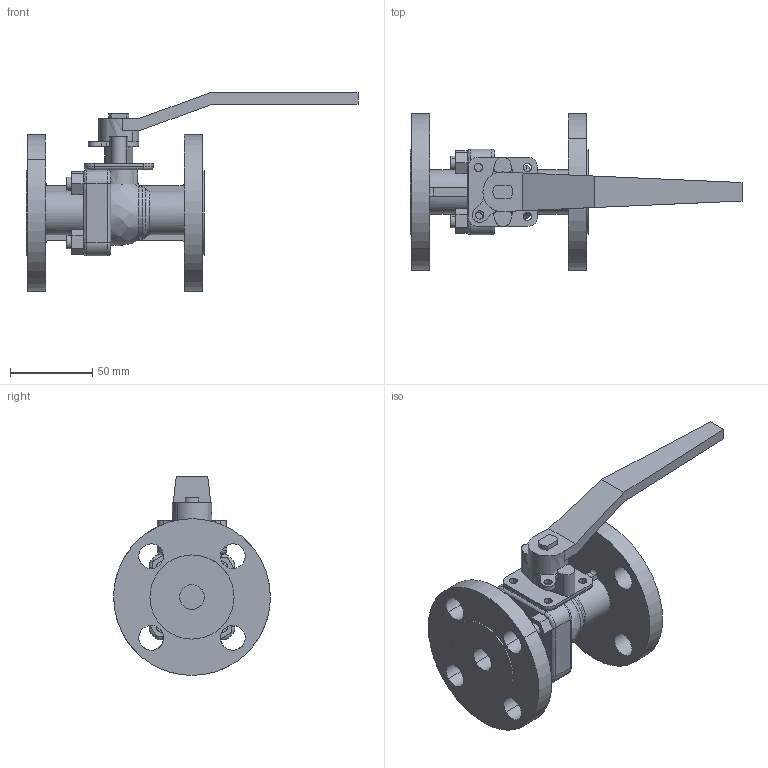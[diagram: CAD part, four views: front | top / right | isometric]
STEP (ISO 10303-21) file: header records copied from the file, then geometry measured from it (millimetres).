
FILE_DESCRIPTION((''),'2;1');
FILE_NAME('','2022-03-23T15:29:00',(''),(''),'','CADfix','');
FILE_SCHEMA(('AUTOMOTIVE_DESIGN { 1 0 10303 214 1 1 1 1 }'));
Length unit declared in the file: millimetre
Products named in the file (2): BLV-2SFJ 15A; BLV-2SF JIS 10K 15A_38
Assembly tree (1 placements, depth 2):
  BLV-2SF JIS 10K 15A_38
    BLV-2SFJ 15A
Bounding box: 201.3 x 95 x 120.5 mm (x, y, z)
Volume: 257631.4 mm3; surface area: 69996.9 mm2
Topology: 1 solids, 1 shells, 217 faces, 784 edges, 580 vertices
Faces by surface type: bspline 217
Entity records: 11382 total; most frequent: CARTESIAN_POINT 6223, ORIENTED_EDGE 1568, EDGE_CURVE 784, STYLED_ITEM 638, VERTEX_POINT 580, B_SPLINE_CURVE_WITH_KNOTS 376, QUASI_UNIFORM_CURVE 320, EDGE_LOOP 258
